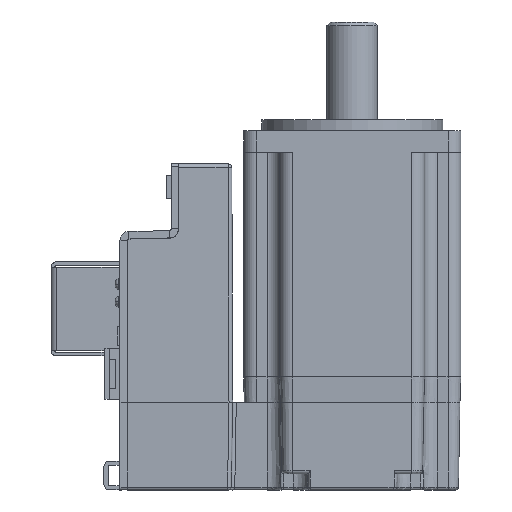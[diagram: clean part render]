
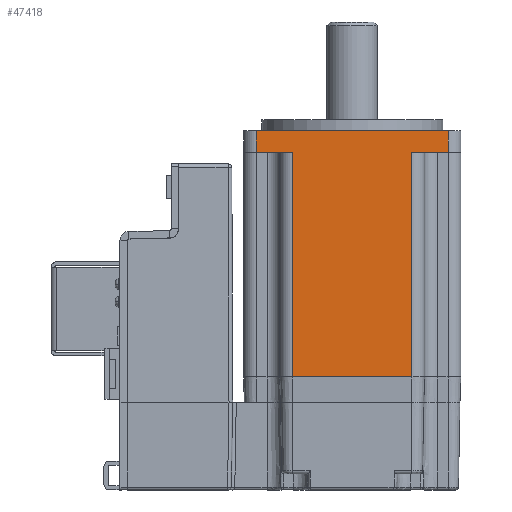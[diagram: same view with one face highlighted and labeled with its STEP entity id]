
A CAD part, left-side view. The second image highlights one B-rep face of the part: STEP entity #47418.
In plain terms, the highlighted planar face has unit normal (-1, 0, 0) as drawn and (0, -1, 0) by its records, which use the part's own axes.
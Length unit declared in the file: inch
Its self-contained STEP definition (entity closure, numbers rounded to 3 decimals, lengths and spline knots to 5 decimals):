
#703 = CARTESIAN_POINT ( 'NONE',  ( 1.04331, -1.1811, 3.56299 ) ) ;
#1121 = DIRECTION ( 'NONE',  ( 0., 0., 1. ) ) ;
#1686 = LINE ( 'NONE', #28933, #77731 ) ;
#2443 = EDGE_CURVE ( 'NONE', #87519, #24806, #38993, .T. ) ;
#2460 = CARTESIAN_POINT ( 'NONE',  ( -1.04331, -1.1811, 3.56299 ) ) ;
#4902 = DIRECTION ( 'NONE',  ( 0., 0., -1. ) ) ;
#7907 = CARTESIAN_POINT ( 'NONE',  ( -0.7874, -1.1811, 3.56299 ) ) ;
#14359 = EDGE_CURVE ( 'NONE', #64006, #40639, #26252, .T. ) ;
#16950 = ORIENTED_EDGE ( 'NONE', *, *, #62410, .T. ) ;
#18303 = DIRECTION ( 'NONE',  ( 1., 0., 0. ) ) ;
#20313 = ORIENTED_EDGE ( 'NONE', *, *, #14359, .T. ) ;
#21353 = FACE_OUTER_BOUND ( 'NONE', #86094, .T. ) ;
#22066 = EDGE_CURVE ( 'NONE', #24806, #47649, #86129, .T. ) ;
#22080 = CARTESIAN_POINT ( 'NONE',  ( -0.64961, -1.1811, 0.88583 ) ) ;
#24806 = VERTEX_POINT ( 'NONE', #22080 ) ;
#24916 = CARTESIAN_POINT ( 'NONE',  ( -0.7874, -1.1811, 0.88583 ) ) ;
#26252 = LINE ( 'NONE', #53540, #69038 ) ;
#27591 = VERTEX_POINT ( 'NONE', #37821 ) ;
#27946 = DIRECTION ( 'NONE',  ( 0., 0., 1. ) ) ;
#28933 = CARTESIAN_POINT ( 'NONE',  ( -0.7874, -1.1811, 3.32677 ) ) ;
#29747 = DIRECTION ( 'NONE',  ( 0., 0., -1. ) ) ;
#30059 = ORIENTED_EDGE ( 'NONE', *, *, #83095, .T. ) ;
#33327 = CARTESIAN_POINT ( 'NONE',  ( -0.64961, -1.1811, 3.32677 ) ) ;
#35118 = LINE ( 'NONE', #62269, #45775 ) ;
#35283 = DIRECTION ( 'NONE',  ( 0., -1., 0. ) ) ;
#36170 = CARTESIAN_POINT ( 'NONE',  ( 1.04331, -1.1811, 3.56299 ) ) ;
#36917 = VECTOR ( 'NONE', #27946, 39.37008 ) ;
#37821 = CARTESIAN_POINT ( 'NONE',  ( 0.64961, -1.1811, 3.32677 ) ) ;
#38855 = CARTESIAN_POINT ( 'NONE',  ( 0.64961, -1.1811, 0.88583 ) ) ;
#38993 = LINE ( 'NONE', #66070, #53823 ) ;
#39575 = VECTOR ( 'NONE', #18303, 39.37008 ) ;
#40639 = VERTEX_POINT ( 'NONE', #75547 ) ;
#44462 = VERTEX_POINT ( 'NONE', #60707 ) ;
#45272 = ORIENTED_EDGE ( 'NONE', *, *, #72841, .T. ) ;
#45775 = VECTOR ( 'NONE', #1121, 39.37008 ) ;
#47418 = ADVANCED_FACE ( 'NONE', ( #21353 ), #69110, .T. ) ;
#47649 = VERTEX_POINT ( 'NONE', #38855 ) ;
#52226 = DIRECTION ( 'NONE',  ( 1., 0., 0. ) ) ;
#52340 = LINE ( 'NONE', #79514, #39575 ) ;
#53540 = CARTESIAN_POINT ( 'NONE',  ( -0.7874, -1.1811, 3.56299 ) ) ;
#53823 = VECTOR ( 'NONE', #4902, 39.37008 ) ;
#54192 = ORIENTED_EDGE ( 'NONE', *, *, #2443, .T. ) ;
#54652 = EDGE_CURVE ( 'NONE', #47649, #27591, #35118, .T. ) ;
#56172 = DIRECTION ( 'NONE',  ( 1., 0., 0. ) ) ;
#57040 = ORIENTED_EDGE ( 'NONE', *, *, #54652, .T. ) ;
#60707 = CARTESIAN_POINT ( 'NONE',  ( 1.04331, -1.1811, 3.32677 ) ) ;
#61845 = LINE ( 'NONE', #703, #36917 ) ;
#62269 = CARTESIAN_POINT ( 'NONE',  ( 0.64961, -1.1811, 3.56299 ) ) ;
#62410 = EDGE_CURVE ( 'NONE', #44462, #64006, #61845, .T. ) ;
#62431 = DIRECTION ( 'NONE',  ( 0., 0., -1. ) ) ;
#63610 = LINE ( 'NONE', #2460, #71280 ) ;
#63717 = AXIS2_PLACEMENT_3D ( 'NONE', #7907, #35283, #62431 ) ;
#64006 = VERTEX_POINT ( 'NONE', #36170 ) ;
#66070 = CARTESIAN_POINT ( 'NONE',  ( -0.64961, -1.1811, 3.56299 ) ) ;
#66362 = ORIENTED_EDGE ( 'NONE', *, *, #22066, .T. ) ;
#66591 = EDGE_CURVE ( 'NONE', #40639, #87937, #63610, .T. ) ;
#69038 = VECTOR ( 'NONE', #80742, 39.37008 ) ;
#69110 = PLANE ( 'NONE',  #63717 ) ;
#71280 = VECTOR ( 'NONE', #29747, 39.37008 ) ;
#71761 = ORIENTED_EDGE ( 'NONE', *, *, #66591, .T. ) ;
#72841 = EDGE_CURVE ( 'NONE', #87937, #87519, #1686, .T. ) ;
#74631 = CARTESIAN_POINT ( 'NONE',  ( -1.04331, -1.1811, 3.32677 ) ) ;
#75547 = CARTESIAN_POINT ( 'NONE',  ( -1.04331, -1.1811, 3.56299 ) ) ;
#77731 = VECTOR ( 'NONE', #56172, 39.37008 ) ;
#79514 = CARTESIAN_POINT ( 'NONE',  ( -0.7874, -1.1811, 3.32677 ) ) ;
#80742 = DIRECTION ( 'NONE',  ( -1., 0., 0. ) ) ;
#83095 = EDGE_CURVE ( 'NONE', #27591, #44462, #52340, .T. ) ;
#84974 = VECTOR ( 'NONE', #52226, 39.37008 ) ;
#86094 = EDGE_LOOP ( 'NONE', ( #30059, #16950, #20313, #71761, #45272, #54192, #66362, #57040 ) ) ;
#86129 = LINE ( 'NONE', #24916, #84974 ) ;
#87519 = VERTEX_POINT ( 'NONE', #33327 ) ;
#87937 = VERTEX_POINT ( 'NONE', #74631 ) ;
